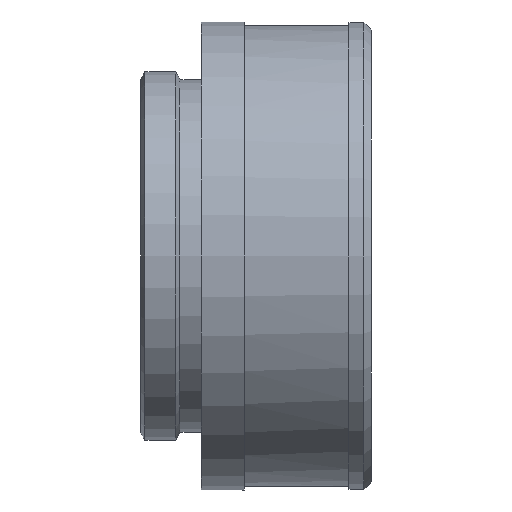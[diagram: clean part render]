
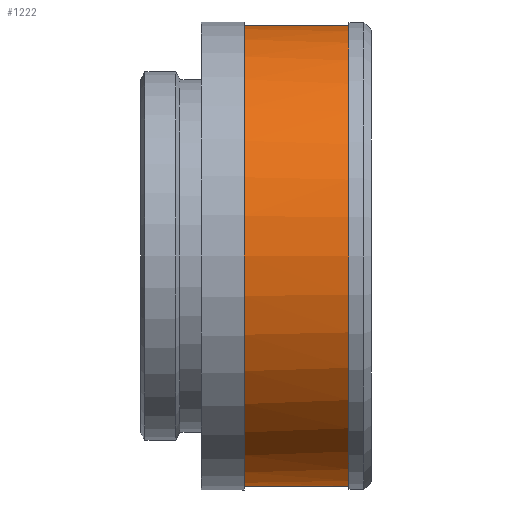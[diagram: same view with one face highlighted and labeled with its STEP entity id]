
A CAD part, left-side view. The second image highlights one B-rep face of the part: STEP entity #1222.
In plain terms, the highlighted cylindrical face has radius 15.621 mm (diameter 31.242 mm), a partial arc.
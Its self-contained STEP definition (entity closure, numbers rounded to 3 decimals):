
#35 = AXIS2_PLACEMENT_3D ( 'NONE', #477, #473, #467 ) ;
#119 = VECTOR ( 'NONE', #1343, 1000. ) ;
#135 = AXIS2_PLACEMENT_3D ( 'NONE', #342, #343, #344 ) ;
#137 = AXIS2_PLACEMENT_3D ( 'NONE', #348, #346, #345 ) ;
#138 = CIRCLE ( 'NONE', #135, 15.621 ) ;
#139 = AXIS2_PLACEMENT_3D ( 'NONE', #351, #350, #349 ) ;
#140 = CIRCLE ( 'NONE', #137, 15.621 ) ;
#141 = CIRCLE ( 'NONE', #139, 15.621 ) ;
#177 = AXIS2_PLACEMENT_3D ( 'NONE', #426, #424, #425 ) ;
#179 = CIRCLE ( 'NONE', #177, 15.621 ) ;
#233 = VECTOR ( 'NONE', #712, 1000. ) ;
#342 = CARTESIAN_POINT ( 'NONE',  ( 0., 3.902, 0. ) ) ;
#343 = DIRECTION ( 'NONE',  ( 0., 1., 0. ) ) ;
#344 = DIRECTION ( 'NONE',  ( 0., 0., 1. ) ) ;
#345 = DIRECTION ( 'NONE',  ( 0., 0., 1. ) ) ;
#346 = DIRECTION ( 'NONE',  ( 0., 1., 0. ) ) ;
#348 = CARTESIAN_POINT ( 'NONE',  ( 0., -3.21, 0. ) ) ;
#349 = DIRECTION ( 'NONE',  ( 0., 0., 1. ) ) ;
#350 = DIRECTION ( 'NONE',  ( 0., 1., 0. ) ) ;
#351 = CARTESIAN_POINT ( 'NONE',  ( 0., -3.21, 0. ) ) ;
#424 = DIRECTION ( 'NONE',  ( 0., 1., 0. ) ) ;
#425 = DIRECTION ( 'NONE',  ( 0., 0., 1. ) ) ;
#426 = CARTESIAN_POINT ( 'NONE',  ( 0., -3.21, 0. ) ) ;
#467 = DIRECTION ( 'NONE',  ( 0., 0., 1. ) ) ;
#469 = FACE_OUTER_BOUND ( 'NONE', #913, .T. ) ;
#470 = CYLINDRICAL_SURFACE ( 'NONE', #35, 15.621 ) ;
#473 = DIRECTION ( 'NONE',  ( 0., 1., 0. ) ) ;
#477 = CARTESIAN_POINT ( 'NONE',  ( 0., 0., 0. ) ) ;
#603 = ORIENTED_EDGE ( 'NONE', *, *, #1178, .F. ) ;
#606 = ORIENTED_EDGE ( 'NONE', *, *, #1117, .T. ) ;
#607 = ORIENTED_EDGE ( 'NONE', *, *, #1151, .T. ) ;
#611 = ORIENTED_EDGE ( 'NONE', *, *, #1177, .T. ) ;
#613 = ORIENTED_EDGE ( 'NONE', *, *, #1176, .T. ) ;
#615 = ORIENTED_EDGE ( 'NONE', *, *, #1191, .F. ) ;
#637 = CARTESIAN_POINT ( 'NONE',  ( 0., 3.902, -15.621 ) ) ;
#638 = VERTEX_POINT ( 'NONE', #874 ) ;
#642 = VERTEX_POINT ( 'NONE', #637 ) ;
#656 = VERTEX_POINT ( 'NONE', #872 ) ;
#697 = VERTEX_POINT ( 'NONE', #856 ) ;
#712 = DIRECTION ( 'NONE',  ( 0., 1., 0. ) ) ;
#713 = VERTEX_POINT ( 'NONE', #849 ) ;
#718 = LINE ( 'NONE', #728, #233 ) ;
#728 = CARTESIAN_POINT ( 'NONE',  ( 0., 0., 15.621 ) ) ;
#729 = VERTEX_POINT ( 'NONE', #845 ) ;
#845 = CARTESIAN_POINT ( 'NONE',  ( 0., -3.21, 15.621 ) ) ;
#849 = CARTESIAN_POINT ( 'NONE',  ( -0.762, -3.21, 15.602 ) ) ;
#856 = CARTESIAN_POINT ( 'NONE',  ( -0.762, -3.21, -15.602 ) ) ;
#872 = CARTESIAN_POINT ( 'NONE',  ( 0., 3.902, 15.621 ) ) ;
#874 = CARTESIAN_POINT ( 'NONE',  ( 0., -3.21, -15.621 ) ) ;
#913 = EDGE_LOOP ( 'NONE', ( #615, #613, #607, #611, #606, #603 ) ) ;
#1117 = EDGE_CURVE ( 'NONE', #729, #656, #718, .T. ) ;
#1151 = EDGE_CURVE ( 'NONE', #697, #713, #179, .T. ) ;
#1176 = EDGE_CURVE ( 'NONE', #638, #697, #141, .T. ) ;
#1177 = EDGE_CURVE ( 'NONE', #713, #729, #140, .T. ) ;
#1178 = EDGE_CURVE ( 'NONE', #642, #656, #138, .T. ) ;
#1191 = EDGE_CURVE ( 'NONE', #638, #642, #1361, .T. ) ;
#1222 = ADVANCED_FACE ( 'NONE', ( #469 ), #470, .T. ) ;
#1343 = DIRECTION ( 'NONE',  ( 0., 1., 0. ) ) ;
#1359 = CARTESIAN_POINT ( 'NONE',  ( 0., 0., -15.621 ) ) ;
#1361 = LINE ( 'NONE', #1359, #119 ) ;
